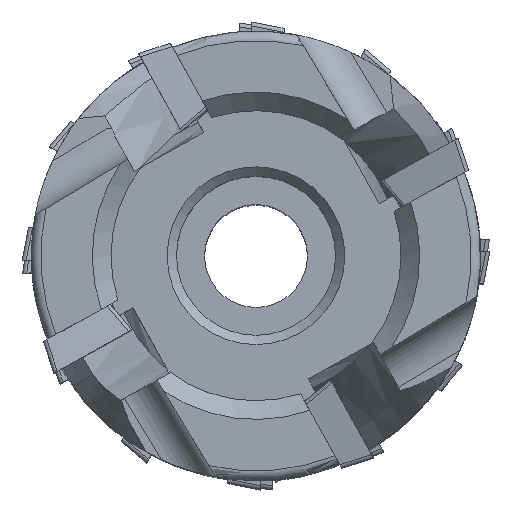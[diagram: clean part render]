
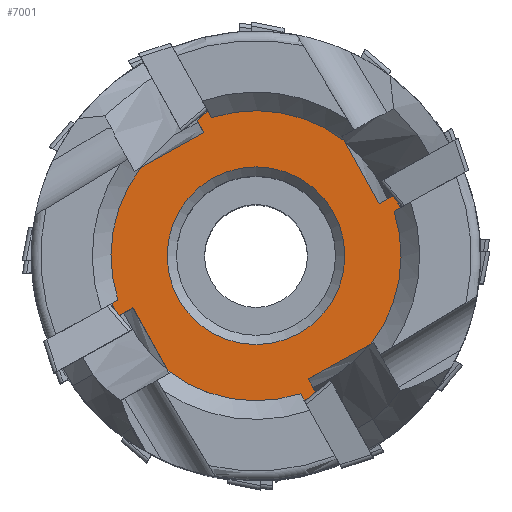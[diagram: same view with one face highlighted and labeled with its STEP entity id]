
A CAD part, top view. The second image highlights one B-rep face of the part: STEP entity #7001.
In plain terms, the highlighted planar face has unit normal (0, 0, 1).
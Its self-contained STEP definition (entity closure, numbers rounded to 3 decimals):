
#363=PLANE('',#7521);
#515=FACE_BOUND('',#1140,.T.);
#755=FACE_OUTER_BOUND('',#1139,.T.);
#1139=EDGE_LOOP('',(#6062,#6063,#6064,#6065,#6066,#6067,#6068,#6069,#6070,
#6071,#6072,#6073,#6074,#6075,#6076,#6077,#6078,#6079,#6080,#6081));
#1140=EDGE_LOOP('',(#6082));
#1332=CIRCLE('',#7264,15.5);
#1334=CIRCLE('',#7267,15.5);
#1336=CIRCLE('',#7270,15.5);
#1338=CIRCLE('',#7273,15.5);
#1424=CIRCLE('',#7522,9.5);
#1925=LINE('',#11793,#2373);
#1934=LINE('',#11840,#2382);
#1939=LINE('',#11863,#2387);
#1944=LINE('',#11898,#2392);
#1946=LINE('',#11903,#2394);
#1955=LINE('',#11969,#2403);
#1963=LINE('',#12005,#2411);
#2025=LINE('',#13816,#2473);
#2053=LINE('',#14024,#2501);
#2114=LINE('',#14342,#2562);
#2136=LINE('',#14431,#2584);
#2138=LINE('',#14435,#2586);
#2142=LINE('',#14451,#2590);
#2165=LINE('',#14542,#2613);
#2167=LINE('',#14546,#2615);
#2171=LINE('',#14562,#2619);
#2373=VECTOR('',#7983,10.);
#2382=VECTOR('',#8002,10.);
#2387=VECTOR('',#8013,10.);
#2392=VECTOR('',#8024,10.);
#2394=VECTOR('',#8028,10.);
#2403=VECTOR('',#8053,10.);
#2411=VECTOR('',#8081,10.);
#2473=VECTOR('',#8231,10.);
#2501=VECTOR('',#8307,10.);
#2562=VECTOR('',#8474,10.);
#2584=VECTOR('',#8548,10.);
#2586=VECTOR('',#8552,10.);
#2590=VECTOR('',#8558,10.);
#2613=VECTOR('',#8635,10.);
#2615=VECTOR('',#8639,10.);
#2619=VECTOR('',#8645,10.);
#3011=VERTEX_POINT('',#11755);
#3013=VERTEX_POINT('',#11758);
#3015=VERTEX_POINT('',#11764);
#3017=VERTEX_POINT('',#11767);
#3019=VERTEX_POINT('',#11773);
#3021=VERTEX_POINT('',#11776);
#3023=VERTEX_POINT('',#11782);
#3025=VERTEX_POINT('',#11785);
#3027=VERTEX_POINT('',#11791);
#3028=VERTEX_POINT('',#11792);
#3047=VERTEX_POINT('',#11862);
#3056=VERTEX_POINT('',#11896);
#3057=VERTEX_POINT('',#11900);
#3071=VERTEX_POINT('',#11967);
#3168=VERTEX_POINT('',#13815);
#3198=VERTEX_POINT('',#14023);
#3261=VERTEX_POINT('',#14430);
#3262=VERTEX_POINT('',#14434);
#3276=VERTEX_POINT('',#14541);
#3277=VERTEX_POINT('',#14545);
#3322=VERTEX_POINT('',#15081);
#3756=EDGE_CURVE('',#3011,#3013,#1332,.T.);
#3760=EDGE_CURVE('',#3015,#3017,#1334,.T.);
#3764=EDGE_CURVE('',#3019,#3021,#1336,.T.);
#3768=EDGE_CURVE('',#3023,#3025,#1338,.T.);
#3771=EDGE_CURVE('',#3027,#3028,#1925,.T.);
#3788=EDGE_CURVE('',#3028,#3025,#1934,.T.);
#3797=EDGE_CURVE('',#3047,#3013,#1939,.T.);
#3809=EDGE_CURVE('',#3056,#3015,#1944,.T.);
#3811=EDGE_CURVE('',#3057,#3056,#1946,.F.);
#3831=EDGE_CURVE('',#3071,#3019,#1955,.T.);
#3845=EDGE_CURVE('',#3027,#3071,#1963,.F.);
#4003=EDGE_CURVE('',#3168,#3021,#2025,.T.);
#4051=EDGE_CURVE('',#3198,#3017,#2053,.T.);
#4142=EDGE_CURVE('',#3057,#3168,#2114,.T.);
#4171=EDGE_CURVE('',#3261,#3198,#2136,.T.);
#4173=EDGE_CURVE('',#3261,#3262,#2138,.F.);
#4178=EDGE_CURVE('',#3262,#3011,#2142,.T.);
#4208=EDGE_CURVE('',#3276,#3047,#2165,.T.);
#4210=EDGE_CURVE('',#3276,#3277,#2167,.F.);
#4215=EDGE_CURVE('',#3277,#3023,#2171,.T.);
#4286=EDGE_CURVE('',#3322,#3322,#1424,.T.);
#6062=ORIENTED_EDGE('',*,*,#3771,.T.);
#6063=ORIENTED_EDGE('',*,*,#3788,.T.);
#6064=ORIENTED_EDGE('',*,*,#3768,.F.);
#6065=ORIENTED_EDGE('',*,*,#4215,.F.);
#6066=ORIENTED_EDGE('',*,*,#4210,.F.);
#6067=ORIENTED_EDGE('',*,*,#4208,.T.);
#6068=ORIENTED_EDGE('',*,*,#3797,.T.);
#6069=ORIENTED_EDGE('',*,*,#3756,.F.);
#6070=ORIENTED_EDGE('',*,*,#4178,.F.);
#6071=ORIENTED_EDGE('',*,*,#4173,.F.);
#6072=ORIENTED_EDGE('',*,*,#4171,.T.);
#6073=ORIENTED_EDGE('',*,*,#4051,.T.);
#6074=ORIENTED_EDGE('',*,*,#3760,.F.);
#6075=ORIENTED_EDGE('',*,*,#3809,.F.);
#6076=ORIENTED_EDGE('',*,*,#3811,.F.);
#6077=ORIENTED_EDGE('',*,*,#4142,.T.);
#6078=ORIENTED_EDGE('',*,*,#4003,.T.);
#6079=ORIENTED_EDGE('',*,*,#3764,.F.);
#6080=ORIENTED_EDGE('',*,*,#3831,.F.);
#6081=ORIENTED_EDGE('',*,*,#3845,.F.);
#6082=ORIENTED_EDGE('',*,*,#4286,.F.);
#7001=ADVANCED_FACE('',(#755,#515),#363,.T.);
#7264=AXIS2_PLACEMENT_3D('',#11759,#7952,#7953);
#7267=AXIS2_PLACEMENT_3D('',#11768,#7960,#7961);
#7270=AXIS2_PLACEMENT_3D('',#11777,#7968,#7969);
#7273=AXIS2_PLACEMENT_3D('',#11786,#7976,#7977);
#7521=AXIS2_PLACEMENT_3D('',#15080,#8752,#8753);
#7522=AXIS2_PLACEMENT_3D('',#15082,#8754,#8755);
#7952=DIRECTION('center_axis',(0.,0.,-1.));
#7953=DIRECTION('ref_axis',(1.,0.,0.));
#7960=DIRECTION('center_axis',(0.,0.,-1.));
#7961=DIRECTION('ref_axis',(1.,0.,0.));
#7968=DIRECTION('center_axis',(0.,0.,-1.));
#7969=DIRECTION('ref_axis',(1.,0.,0.));
#7976=DIRECTION('center_axis',(0.,0.,-1.));
#7977=DIRECTION('ref_axis',(1.,0.,0.));
#7983=DIRECTION('',(0.485,-0.875,0.));
#8002=DIRECTION('',(-0.875,-0.485,0.));
#8013=DIRECTION('',(0.485,-0.875,0.));
#8024=DIRECTION('',(-0.853,-0.522,0.));
#8028=DIRECTION('',(-0.485,0.875,0.));
#8053=DIRECTION('',(0.485,-0.875,0.));
#8081=DIRECTION('',(-0.766,-0.643,0.));
#8231=DIRECTION('',(-0.485,0.875,0.));
#8307=DIRECTION('',(0.875,0.485,0.));
#8474=DIRECTION('',(-0.875,-0.485,0.));
#8548=DIRECTION('',(-0.485,0.875,0.));
#8552=DIRECTION('',(0.875,0.485,0.));
#8558=DIRECTION('',(-0.485,0.875,0.));
#8635=DIRECTION('',(0.875,0.485,0.));
#8639=DIRECTION('',(0.485,-0.875,0.));
#8645=DIRECTION('',(0.875,0.485,0.));
#8752=DIRECTION('center_axis',(0.,0.,1.));
#8753=DIRECTION('ref_axis',(1.,0.,0.));
#8754=DIRECTION('center_axis',(0.,0.,1.));
#8755=DIRECTION('ref_axis',(-1.,0.,0.));
#11755=CARTESIAN_POINT('',(4.749,-14.755,86.8));
#11758=CARTESIAN_POINT('',(-9.407,-12.319,86.8));
#11759=CARTESIAN_POINT('Origin',(0.,0.,86.8));
#11764=CARTESIAN_POINT('',(14.753,4.753,86.8));
#11767=CARTESIAN_POINT('',(12.319,-9.407,86.8));
#11768=CARTESIAN_POINT('Origin',(0.,0.,86.8));
#11773=CARTESIAN_POINT('',(-4.749,14.755,86.8));
#11776=CARTESIAN_POINT('',(9.407,12.319,86.8));
#11777=CARTESIAN_POINT('Origin',(0.,0.,86.8));
#11782=CARTESIAN_POINT('',(-14.755,-4.749,86.8));
#11785=CARTESIAN_POINT('',(-12.319,9.407,86.8));
#11786=CARTESIAN_POINT('Origin',(0.,0.,86.8));
#11791=CARTESIAN_POINT('',(-6.304,14.466,86.8));
#11792=CARTESIAN_POINT('',(-5.572,13.147,86.8));
#11793=CARTESIAN_POINT('',(-7.046,15.805,86.8));
#11840=CARTESIAN_POINT('',(-7.103,12.298,86.8));
#11862=CARTESIAN_POINT('',(-13.147,-5.572,86.8));
#11863=CARTESIAN_POINT('',(-12.298,-7.103,86.8));
#11896=CARTESIAN_POINT('',(15.43,5.167,86.8));
#11898=CARTESIAN_POINT('',(17.89,6.671,86.8));
#11900=CARTESIAN_POINT('',(14.721,6.445,86.8));
#11903=CARTESIAN_POINT('',(14.114,7.54,86.8));
#11967=CARTESIAN_POINT('',(-5.133,15.448,86.8));
#11969=CARTESIAN_POINT('',(-7.151,19.089,86.8));
#12005=CARTESIAN_POINT('',(-8.048,13.002,86.8));
#13815=CARTESIAN_POINT('',(13.147,5.572,86.8));
#13816=CARTESIAN_POINT('',(12.298,7.103,86.8));
#14023=CARTESIAN_POINT('',(5.572,-13.147,86.8));
#14024=CARTESIAN_POINT('',(7.103,-12.298,86.8));
#14342=CARTESIAN_POINT('',(15.805,7.046,86.8));
#14430=CARTESIAN_POINT('',(6.445,-14.721,86.8));
#14431=CARTESIAN_POINT('',(7.046,-15.805,86.8));
#14434=CARTESIAN_POINT('',(5.133,-15.448,86.8));
#14435=CARTESIAN_POINT('',(8.477,-13.595,86.8));
#14451=CARTESIAN_POINT('',(7.13,-19.051,86.8));
#14541=CARTESIAN_POINT('',(-14.721,-6.445,86.8));
#14542=CARTESIAN_POINT('',(-15.805,-7.046,86.8));
#14545=CARTESIAN_POINT('',(-15.448,-5.133,86.8));
#14546=CARTESIAN_POINT('',(-13.566,-8.528,86.8));
#14562=CARTESIAN_POINT('',(-19.087,-7.15,86.8));
#15080=CARTESIAN_POINT('Origin',(9.313,-13.403,86.8));
#15081=CARTESIAN_POINT('',(9.5,0.,86.8));
#15082=CARTESIAN_POINT('Origin',(0.,0.,86.8));
